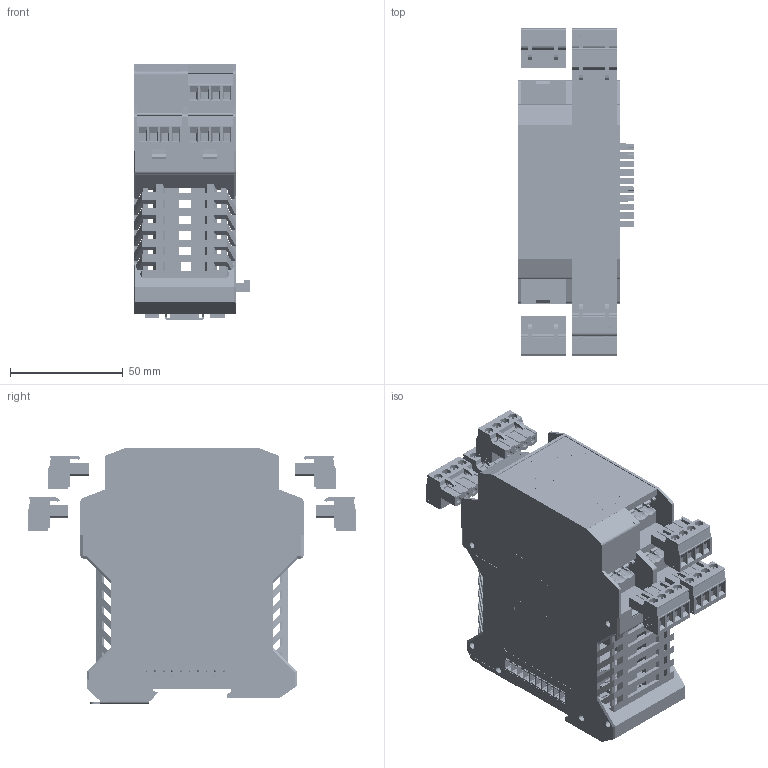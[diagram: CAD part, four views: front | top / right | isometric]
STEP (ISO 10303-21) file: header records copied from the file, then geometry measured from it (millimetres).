
FILE_DESCRIPTION(('STEP AP203'), '1');
FILE_NAME('鍛鍧 BAO-8-1_', '', ('UNSPECIFIED'), ('UNSPECIFIED'), 'ASCON STEP Converter 1.3', 'ASCON Math Kernel', '');
FILE_SCHEMA(('CONFIG_CONTROL_DESIGN'));
Length unit declared in the file: millimetre
Products named in the file (19): MSTBT_2.5-4-ST; ME_45 2853682; ME_BUS_22_5_MC_10-ST_H.Select__00493208; ME_Verriegelungshaken_H.Select__00446697.1.1.1; ME_45_UTM_H.Select__00294716; ME_22.5_UTR_H_BUS_10_H.Select__00496319; ME_22.5_UTL_H_BUS_10_H.Select__00496310; Fussriegel_17.5_L30_H.Select__00315466; ME_45_OT-MSTBO_H.Select__00276796; ч蜱齁罻; ME_B-22.5_MSTBO_H.Select__00296524; MSTBO_2_5_4-G1L_H.Select__00364411; MSTBO_2_5_4-G1R_H.Select__00364505
Assembly tree (32 placements, depth 5):
  (unnamed)
    MSTBT_2.5-4-ST  x6
      MSTBT_2.5-4-ST
    (unnamed)
      (unnamed)
        ME_45 2853682
          ME_BUS_22_5_MC_10-ST_H.Select__00493208  x2
          ME_Verriegelungshaken_H.Select__00446697.1.1.1  x4
          ME_45_UTM_H.Select__00294716
          ME_22.5_UTR_H_BUS_10_H.Select__00496319
          ME_22.5_UTL_H_BUS_10_H.Select__00496310
          Fussriegel_17.5_L30_H.Select__00315466
      (unnamed)
        ME_45_OT-MSTBO_H.Select__00276796
          ME_45_OT-MSTBO_H.Select__00276796
        ч蜱齁罻  x2
          ME_B-22.5_MSTBO_H.Select__00296524
        MSTBO_2_5_4-G1L_H.Select__00364411  x3
        MSTBO_2_5_4-G1R_H.Select__00364505  x3
Bounding box: 51.7 x 145.9 x 113.6 mm (x, y, z)
Volume: 125851.6 mm3; surface area: 148507 mm2
Topology: 28 solids, 31 shells, 22403 faces, 62613 edges, 41516 vertices
Faces by surface type: plane 14207, cylinder 7722, extrusion 426, cone 48
Full cylindrical faces by diameter (mm): 0.813 x4, 0.853 x4, 1.353 x24, 1.4 x48, 1.6 x40, 2 x12, 2.1 x4, 2.8 x48, 3 x12, 3.783 x24, 4 x24
Entity records: 692537 total; most frequent: CARTESIAN_POINT 101521, ORIENTED_EDGE 95942, DIRECTION 95092, EDGE_CURVE 47971, VECTOR 33720, LINE 33479, VERTEX_POINT 31950, AXIS2_PLACEMENT_3D 30686
